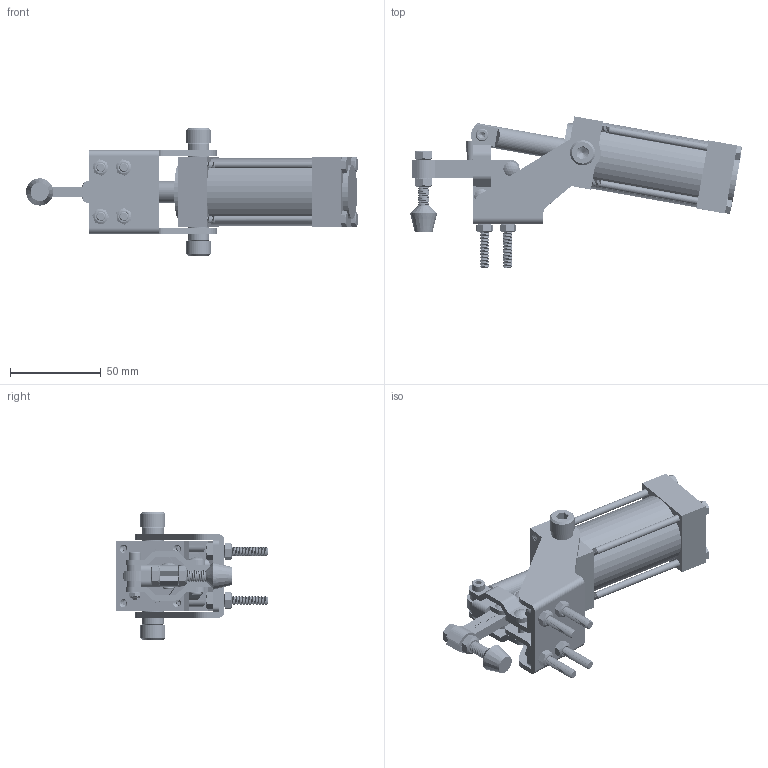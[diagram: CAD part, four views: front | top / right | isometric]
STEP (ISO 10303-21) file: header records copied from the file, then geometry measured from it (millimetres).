
FILE_DESCRIPTION(/* description */ ('STEP AP203'),/* implementation_level */ '2;1');
FILE_NAME(/* name */ 'D:\Vault_2016\Projekty\STRONA\Pneumatic toggle clamp\CH-12050-A\CH-12050-A_ZAMKNIETY.stp',/* time_stamp */ '2019-01-29T11:34:49+01:00',/* author */ ('user'),/* organization */ ('Î¢ÈíÖÐ¹ú'),/* preprocessor_version */ 'ST-DEVELOPER v17.2',/* originating_system */ 'Autodesk Inventor 2019',/* authorisation */ '');
FILE_SCHEMA (('AUTOMOTIVE_DESIGN { 1 0 10303 214 3 1 1 }'));
Length unit declared in the file: millimetre
Products named in the file (19): CH-12050-A_ZAMKNIETY; Air cylinder-2_Ä¬ÈÏ; CH-FC-14134_Ä¬ÈÏ; 12RIVET_Ä¬ÈÏ; CH-12050-02_Ä¬ÈÏ; Air cylinder-1_Ä¬ÈÏ; CH-12050-A-01_Ä¬ÈÏ; 1-4_Ä¬ÈÏ; 18RIVET_Ä¬ÈÏ; M4NUT_Ä¬ÈÏ; CH-12050-A-05_Ä¬ÈÏ; CH-36003-A-03_Ä¬ÈÏ; M8-15_Ä¬ÈÏ; CH-12050-01_Ä¬ÈÏ; M4-24_Ä¬ÈÏ; M5-30_Ä¬ÈÏ; M5_Ä¬ÈÏ; Air cylinder-3_Ä¬ÈÏ; CH-12050-A-04_Ä¬ÈÏ
Assembly tree (31 placements, depth 2):
  CH-12050-A_ZAMKNIETY
    12RIVET_Ä¬ÈÏ  x2
    M8-15_Ä¬ÈÏ  x2
    Air cylinder-2_Ä¬ÈÏ
    CH-FC-14134_Ä¬ÈÏ
    CH-12050-02_Ä¬ÈÏ
    Air cylinder-1_Ä¬ÈÏ
    CH-12050-A-01_Ä¬ÈÏ
    1-4_Ä¬ÈÏ  x2
    M5-30_Ä¬ÈÏ  x4
    M5_Ä¬ÈÏ  x4
    18RIVET_Ä¬ÈÏ
    M4NUT_Ä¬ÈÏ
    Air cylinder-3_Ä¬ÈÏ  x4
    CH-12050-A-05_Ä¬ÈÏ
    CH-36003-A-03_Ä¬ÈÏ  x2
    CH-12050-01_Ä¬ÈÏ
    M4-24_Ä¬ÈÏ
    CH-12050-A-04_Ä¬ÈÏ
Bounding box: 182.69 x 83.21 x 70 mm (x, y, z)
Volume: 153290.8 mm3; surface area: 69206 mm2
Topology: 33 solids, 35 shells, 1194 faces, 3502 edges, 2432 vertices
Faces by surface type: plane 506, cylinder 361, bspline 228, cone 81, torus 15, sphere 3
Full cylindrical faces by diameter (mm): 1.005 x1, 1.217 x1, 4 x24, 4.1 x5, 4.2 x16, 5 x136, 5.1 x6, 5.2 x4, 5.3 x4, 6.4 x26, 6.8 x14, 7 x1, 8 x22, 8.1 x2, 9 x2, 12 x4, 12.1 x2, 13.8 x2, 30 x2, 37 x1
Entity records: 79717 total; most frequent: CARTESIAN_POINT 57417, ORIENTED_EDGE 5084, DIRECTION 3554, EDGE_CURVE 2542, VERTEX_POINT 1769, LINE 1224, VECTOR 1224, AXIS2_PLACEMENT_3D 1165
